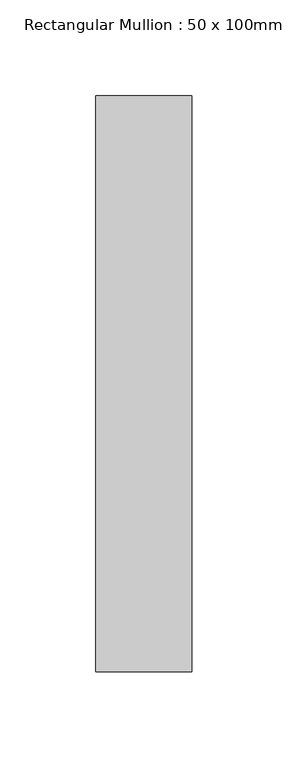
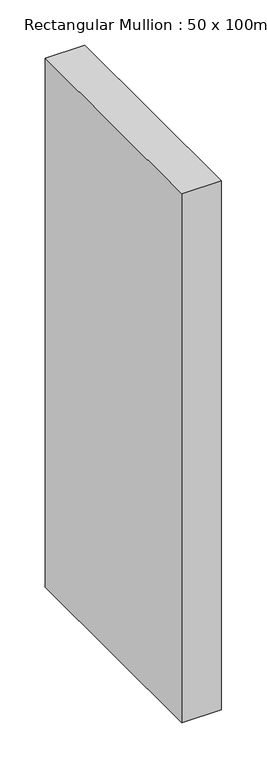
"""IFC4 building model written with IfcOpenShell, lengths in millimetres: member geometry, Rectangular Mullion : 50 x 100mm."""

from ifc_helpers import new_model, si_unit, frame, origin, place, context, project, spatial, polyline, outline, extrude, source, transform, mapped, element, save


def rectangular_mullion_50_x_100mm_30790735(model_context):
    return source(origin(), model_context, "Body", "SweptSolid", [
        extrude(outline(polyline([(0.0, 175.0), (0.0, -125.0), (-50.0, -125.0), (-50.0, 175.0), (0.0, 175.0)])), frame((0.0, 0.0, -710.0738382), z_axis=(0.0, 0.0, 1.0), x_axis=(1.0, 0.0, 0.0)), (0.0, 0.0, 1.0), 710.0738382),
    ])


if __name__ == "__main__":
    model = new_model("IFC4")
    model_context = context("Model", 3, world=origin())
    ifc_project = project(units=[si_unit("LENGTHUNIT", "METRE", prefix="MILLI")], contexts=[model_context])
    site = spatial("IfcSite", under=ifc_project)
    building = spatial("IfcBuilding", under=site)
    placement = place(None, origin())
    rectangular_mullion_50_x_100mm_shape = rectangular_mullion_50_x_100mm_30790735(model_context)
    element("IfcMember", 1, ObjectType="Rectangular Mullion : 50 x 100mm", at=placement, inside=building, context=model_context, shape_type="MappedRepresentation", body=[
        mapped(rectangular_mullion_50_x_100mm_shape, transform((0.0, 0.0, 0.0), x_axis=(1.0, 0.0, 0.0), y_axis=(0.0, 1.0, 0.0), z_axis=(0.0, 0.0, 1.0))),
    ])
    save(model, "model.ifc")
